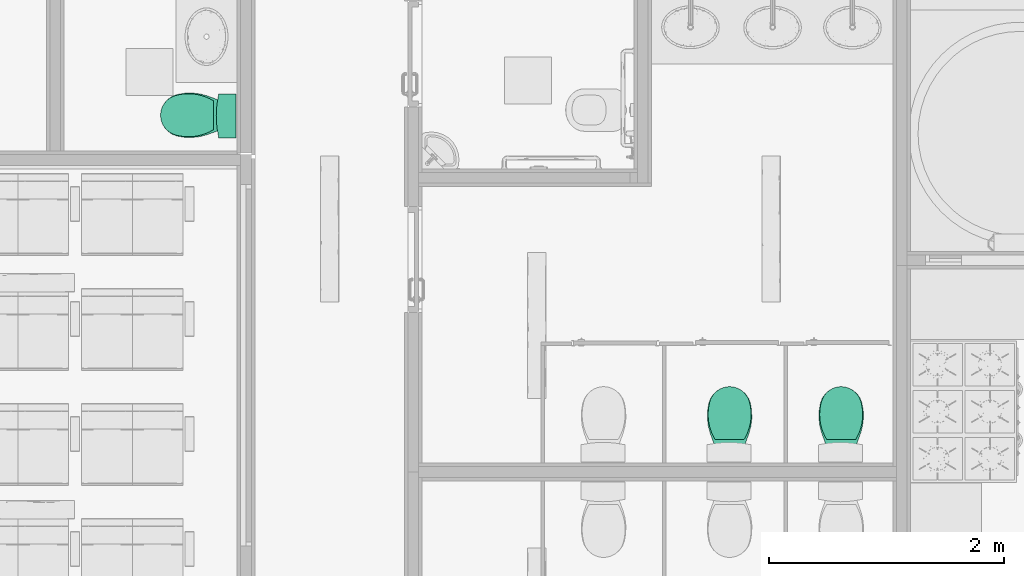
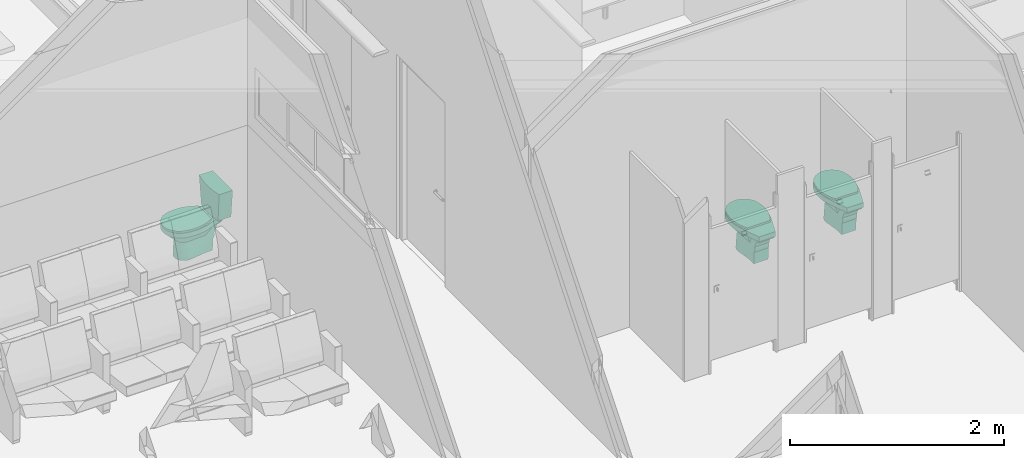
# One storey, part 71 of 155: 7 flow terminals.
"""IFC2X3 building model written with IfcOpenShell, lengths in metres."""

import ifcopenshell
import ifcopenshell.guid

model = None  # the IFC model being written
_history = None  # IfcOwnerHistory: only IFC2X3 demands one
_inside = {}  # id of a spatial element -> (the spatial element, [elements in it])
_under = {}  # id of a project, library or spatial element -> (it, [spatial elements below it])
_declared = {}  # id of a project -> (the project, [libraries it declares])
_typed = {}  # id of a type object -> (the type object, [elements of that type])
_made_of = {}  # id of a material, layer set ... -> (it, [elements and type objects made of it])


def new_model(schema):
    """Start an empty IFC model of exactly this schema.

    Asked for "IFC4X3", IfcOpenShell would pick the latest addendum, in which some entities
    have other attributes; the version numbers below select the first issue.
    IFC2X3 requires an IfcOwnerHistory on every rooted entity: one is made here for all.
    """
    global model, _history
    if schema == "IFC4X3":
        model = ifcopenshell.file(schema_version=(4, 3, 0, 0))
    else:
        model = ifcopenshell.file(schema=schema)
    _inside.clear()
    _under.clear()
    _declared.clear()
    _typed.clear()
    _made_of.clear()
    _history = None
    if model.schema == "IFC2X3":
        org = make("IfcOrganization", Name="unknown")
        user = make(
            "IfcPersonAndOrganization",
            ThePerson=make("IfcPerson", FamilyName="unknown"),
            TheOrganization=org,
        )
        app = make(
            "IfcApplication",
            ApplicationDeveloper=org,
            Version="unknown",
            ApplicationFullName="unknown",
            ApplicationIdentifier="unknown",
        )
        _history = make(
            "IfcOwnerHistory",
            OwningUser=user,
            OwningApplication=app,
            ChangeAction="ADDED",
            CreationDate=0,
        )
    return model


def make(cls, **values):
    """One entity of the class cls with the attributes given. An attribute that is None is left unset."""
    return model.create_entity(
        cls, **{name: value for name, value in values.items() if value is not None}
    )


def entity(cls, *values):
    """Any entity or typed value of the class cls, its attributes in the order of the schema. None: left unset."""
    e = model.create_entity(cls)
    for i, value in enumerate(values):
        if value is not None:
            e[i] = value
    return e


def rooted(cls, **values):
    """An entity with a GlobalId (a new one), such as an element, a storey or a relation."""
    return make(cls, GlobalId=ifcopenshell.guid.new(), OwnerHistory=_history, **values)


def si_unit(unit_type, name, prefix=None):
    """IfcSIUnit, for example si_unit("LENGTHUNIT", "METRE", prefix="MILLI")."""
    return make("IfcSIUnit", UnitType=unit_type, Prefix=prefix, Name=name)


def converted_unit(unit_type, name, factor, base, dimensions=None, offset=None):
    """IfcConversionBasedUnit, such as the inch: factor (a typed value) times the base unit."""
    return make(
        "IfcConversionBasedUnit"
        if offset is None
        else "IfcConversionBasedUnitWithOffset",
        ConversionOffset=offset,
        Dimensions=None
        if dimensions is None
        else entity("IfcDimensionalExponents", *dimensions),
        UnitType=unit_type,
        Name=name,
        ConversionFactor=make(
            "IfcMeasureWithUnit", ValueComponent=factor, UnitComponent=base
        ),
    )


def derived_unit(unit_type, elements):
    """IfcDerivedUnit: a product of units, each with its exponent."""
    return make(
        "IfcDerivedUnit",
        Elements=[
            make("IfcDerivedUnitElement", Unit=unit, Exponent=power)
            for unit, power in elements
        ],
        UnitType=unit_type,
    )


def assignment(units):
    """IfcUnitAssignment: the units of a project."""
    return None if units is None else make("IfcUnitAssignment", Units=units)


def point(xyz):
    """IfcCartesianPoint."""
    return None if xyz is None else make("IfcCartesianPoint", Coordinates=xyz)


def direction(xyz):
    """IfcDirection."""
    return None if xyz is None else make("IfcDirection", DirectionRatios=xyz)


def frame(location, z_axis=None, x_axis=None):
    """IfcAxis2Placement3D, a coordinate frame: its origin and axes. An axis left out is left unset."""
    return make(
        "IfcAxis2Placement3D",
        Location=point(location),
        Axis=direction(z_axis),
        RefDirection=direction(x_axis),
    )


def frame_2d(location, x_axis=None):
    """IfcAxis2Placement2D, a coordinate frame in the plane: its origin and x axis."""
    return make(
        "IfcAxis2Placement2D", Location=point(location), RefDirection=direction(x_axis)
    )


def origin():
    """The frame at (0, 0, 0) with its axes left unset."""
    return frame((0.0, 0.0, 0.0))


def place(relative_to, where):
    """IfcLocalPlacement: puts the frame where relative to a parent placement (None: the world)."""
    return make(
        "IfcLocalPlacement", PlacementRelTo=relative_to, RelativePlacement=where
    )


def context(
    kind, dimensions, precision=None, world=None, true_north=None, identifier=None
):
    """IfcGeometricRepresentationContext, for example the 3D "Model" context."""
    return make(
        "IfcGeometricRepresentationContext",
        ContextIdentifier=identifier,
        ContextType=kind,
        CoordinateSpaceDimension=dimensions,
        Precision=precision,
        WorldCoordinateSystem=world,
        TrueNorth=true_north,
    )


def subcontext(parent, identifier, kind, view, scale=None):
    """IfcGeometricRepresentationSubContext, for example "Body" below "Model"."""
    return make(
        "IfcGeometricRepresentationSubContext",
        ContextIdentifier=identifier,
        ContextType=kind,
        ParentContext=parent,
        TargetScale=scale,
        TargetView=view,
    )


def project(units=None, contexts=None):
    """IfcProject with its units and contexts."""
    return rooted(
        "IfcProject",
        Name="project",
        RepresentationContexts=contexts,
        UnitsInContext=assignment(units),
    )


def spatial(cls, under=None, at=None, **own):
    """A site, building, storey or space (cls), placed at a placement, below another one or the project."""
    s = rooted(cls, ObjectPlacement=at, **own)
    if under is not None:
        _under.setdefault(under.id(), (under, []))[1].append(s)
    return s


def polyline(points):
    """IfcPolyline through the points."""
    return make("IfcPolyline", Points=[point(p) for p in points])


def circle_curve(where, radius):
    """IfcCircle in the frame where."""
    return make("IfcCircle", Position=where, Radius=radius)


def parameter(value):
    """IfcParameterValue: where a trimmed curve begins or ends, as a parameter of its basis curve."""
    return model.create_entity("IfcParameterValue", value)


def trimmed(basis, trim1, trim2, sense, master):
    """IfcTrimmedCurve: the piece of a basis curve between two trims."""
    return make(
        "IfcTrimmedCurve",
        BasisCurve=basis,
        Trim1=trim1,
        Trim2=trim2,
        SenseAgreement=sense,
        MasterRepresentation=master,
    )


def segment(curve, same_sense, transition):
    """IfcCompositeCurveSegment."""
    return make(
        "IfcCompositeCurveSegment",
        Transition=transition,
        SameSense=same_sense,
        ParentCurve=curve,
    )


def composite_curve(segments, self_intersect=None):
    """IfcCompositeCurve: segments joined end to end."""
    return make("IfcCompositeCurve", Segments=segments, SelfIntersect=self_intersect)


def outline(outer, holes=None, kind="AREA"):
    """IfcArbitraryClosedProfileDef: a profile drawn as a closed curve; with holes, ...WithVoids."""
    if holes is None:
        return make("IfcArbitraryClosedProfileDef", ProfileType=kind, OuterCurve=outer)
    return make(
        "IfcArbitraryProfileDefWithVoids",
        ProfileType=kind,
        OuterCurve=outer,
        InnerCurves=holes,
    )


def extrude(swept, where, along, depth):
    """IfcExtrudedAreaSolid: the profile swept, set in the frame where, extruded along a direction by depth."""
    return make(
        "IfcExtrudedAreaSolid",
        SweptArea=swept,
        Position=where,
        ExtrudedDirection=direction(along),
        Depth=depth,
    )


def faces_of(points, faces, orient=None, outer=None):
    """IfcFace entities. A face is a list of loops; a loop is a list of indices into points, from 0.

    orient and outer hold one flag for each loop. By default every Orientation is true, the
    first loop of a face is its IfcFaceOuterBound and the others are IfcFaceBound.
    """
    made = []
    for i, loops in enumerate(faces):
        bounds = []
        for j, loop in enumerate(loops):
            is_outer = j == 0 if outer is None else outer[i][j]
            bounds.append(
                make(
                    "IfcFaceOuterBound" if is_outer else "IfcFaceBound",
                    Bound=make("IfcPolyLoop", Polygon=[points[k] for k in loop]),
                    Orientation=True if orient is None else orient[i][j],
                )
            )
        made.append(make("IfcFace", Bounds=bounds))
    return made


def faceted_brep(points, faces, orient=None, outer=None, voids=None):
    """IfcFacetedBrep: a solid bounded by flat faces; with voids (closed shells), ...WithVoids."""
    shared = [point(p) for p in points]
    hull = make("IfcClosedShell", CfsFaces=faces_of(shared, faces, orient, outer))
    if voids is None:
        return make("IfcFacetedBrep", Outer=hull)
    return make(
        "IfcFacetedBrepWithVoids",
        Outer=hull,
        Voids=[
            make(cls, CfsFaces=faces_of(shared, fs, o, b)) for cls, fs, o, b in voids
        ],
    )


def shape(context_of_items, identifier, shape_type, items):
    """IfcShapeRepresentation: the items that make up one representation, for example the "Body"."""
    return make(
        "IfcShapeRepresentation",
        ContextOfItems=context_of_items,
        RepresentationIdentifier=identifier,
        RepresentationType=shape_type,
        Items=items,
    )


def source(mapping_origin, context_of_items, identifier, shape_type, items):
    """IfcRepresentationMap: a shape defined once, which mapped items show again and again."""
    return make(
        "IfcRepresentationMap",
        MappingOrigin=mapping_origin,
        MappedRepresentation=shape(context_of_items, identifier, shape_type, items),
    )


def transform(
    local_origin,
    x_axis=None,
    y_axis=None,
    z_axis=None,
    scale=None,
    scale2=None,
    scale3=None,
    uniform=True,
):
    """IfcCartesianTransformationOperator3D, or its non-uniform kind. x_axis, y_axis, z_axis: its Axis1, 2, 3."""
    if uniform:
        return make(
            "IfcCartesianTransformationOperator3D",
            Axis1=direction(x_axis),
            Axis2=direction(y_axis),
            LocalOrigin=point(local_origin),
            Scale=scale,
            Axis3=direction(z_axis),
        )
    return make(
        "IfcCartesianTransformationOperator3DnonUniform",
        Axis1=direction(x_axis),
        Axis2=direction(y_axis),
        LocalOrigin=point(local_origin),
        Scale=scale,
        Axis3=direction(z_axis),
        Scale2=scale2,
        Scale3=scale3,
    )


def mapped(mapping_source, mapping_target):
    """IfcMappedItem: shows the shape of a source again, moved by a transform."""
    return make(
        "IfcMappedItem", MappingSource=mapping_source, MappingTarget=mapping_target
    )


def material(Name=None, Category=None):
    """IfcMaterial."""
    return make("IfcMaterial", Name=Name, Category=Category)


def made_of(thing, what):
    """Note that an element or type object is made of a material, layer set ...; save() writes the relation."""
    if what is not None:
        _made_of.setdefault(what.id(), (what, []))[1].append(thing)
    return thing


def element(
    cls,
    number,
    at=None,
    inside=None,
    cuts=None,
    type_object=None,
    material=None,
    context=None,
    identifier="Body",
    shape_type=None,
    held_by="IfcProductDefinitionShape",
    body=None,
    shapes=None,
    **own,
):
    """One element of the class cls, such as IfcWall. Its Tag is "e" and its number.

    at: its placement. inside: the storey or other place that contains it. cuts: it is an
    opening in that element (IfcRelVoidsElement). A single representation is given by context,
    identifier, shape_type and body (its items); several are given by shapes. held_by: the class
    of the entity that holds the representations. save() writes the other relations.
    """
    e = rooted(cls, Tag="e%d" % number, ObjectPlacement=at, **own)
    if body is not None:
        shapes = [shape(context, identifier, shape_type, body)]
    if shapes is not None:
        e.Representation = make(held_by, Representations=shapes)
    if inside is not None:
        _inside.setdefault(inside.id(), (inside, []))[1].append(e)
    if cuts is not None:
        rooted(
            "IfcRelVoidsElement", RelatingBuildingElement=cuts, RelatedOpeningElement=e
        )
    if type_object is not None:
        _typed.setdefault(type_object.id(), (type_object, []))[1].append(e)
    return made_of(e, material)


def aggregate(whole, parts):
    """IfcRelAggregates: a whole, such as a stair, and the parts it consists of."""
    return rooted("IfcRelAggregates", RelatingObject=whole, RelatedObjects=parts)


def save(model, path):
    """Write the relations noted so far, then the file.

    IfcRelAggregates (storeys below a building ...), IfcRelContainedInSpatialStructure (elements
    in a storey), IfcRelDefinesByType, IfcRelAssociatesMaterial and IfcRelDeclares: one each for
    every whole, place, type object, material and project.
    """
    for whole, parts in _under.values():
        aggregate(whole, parts)
    for where, things in _inside.values():
        rooted(
            "IfcRelContainedInSpatialStructure",
            RelatedElements=things,
            RelatingStructure=where,
        )
    for kind, things in _typed.values():
        rooted("IfcRelDefinesByType", RelatedObjects=things, RelatingType=kind)
    for what, things in _made_of.values():
        rooted("IfcRelAssociatesMaterial", RelatedObjects=things, RelatingMaterial=what)
    for by, libraries in _declared.values():
        rooted("IfcRelDeclares", RelatingContext=by, RelatedDefinitions=libraries)
    model.write(path)


model = new_model("IFC2X3")

# Units and contexts
model_context = context("Model", 3, precision=1e-05, world=origin(), true_north=direction((6.12303176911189e-17, 1.0)))
body_context = subcontext(model_context, "Body", "Model", "MODEL_VIEW")
ifc_project = project(units=[si_unit("LENGTHUNIT", "METRE"), si_unit("AREAUNIT", "SQUARE_METRE"), si_unit("VOLUMEUNIT", "CUBIC_METRE"), converted_unit("PLANEANGLEUNIT", "DEGREE", entity("IfcRatioMeasure", 0.0174532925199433), si_unit("PLANEANGLEUNIT", "RADIAN"), dimensions=[0, 0, 0, 0, 0, 0, 0]), si_unit("MASSUNIT", "GRAM", prefix="KILO"), derived_unit("MASSDENSITYUNIT", [(si_unit("MASSUNIT", "GRAM", prefix="KILO"), 1), (si_unit("LENGTHUNIT", "METRE"), -3)]), si_unit("TIMEUNIT", "SECOND"), si_unit("FREQUENCYUNIT", "HERTZ"), si_unit("THERMODYNAMICTEMPERATUREUNIT", "DEGREE_CELSIUS"), derived_unit("THERMALTRANSMITTANCEUNIT", [(si_unit("MASSUNIT", "GRAM", prefix="KILO"), 1), (si_unit("THERMODYNAMICTEMPERATUREUNIT", "KELVIN"), -1), (si_unit("TIMEUNIT", "SECOND"), -3)]), derived_unit("VOLUMETRICFLOWRATEUNIT", [(si_unit("LENGTHUNIT", "METRE"), 3), (si_unit("TIMEUNIT", "SECOND"), -1)]), si_unit("ELECTRICCURRENTUNIT", "AMPERE"), si_unit("ELECTRICVOLTAGEUNIT", "VOLT"), si_unit("POWERUNIT", "WATT"), si_unit("FORCEUNIT", "NEWTON", prefix="KILO"), si_unit("ILLUMINANCEUNIT", "LUX"), si_unit("LUMINOUSFLUXUNIT", "LUMEN"), si_unit("LUMINOUSINTENSITYUNIT", "CANDELA"), derived_unit("USERDEFINED", [(si_unit("MASSUNIT", "GRAM", prefix="KILO"), -1), (si_unit("LENGTHUNIT", "METRE"), -2), (si_unit("TIMEUNIT", "SECOND"), 3), (si_unit("LUMINOUSFLUXUNIT", "LUMEN"), 1)]), derived_unit("LINEARVELOCITYUNIT", [(si_unit("LENGTHUNIT", "METRE"), 1), (si_unit("TIMEUNIT", "SECOND"), -1)]), si_unit("PRESSUREUNIT", "PASCAL"), derived_unit("USERDEFINED", [(si_unit("LENGTHUNIT", "METRE"), -2), (si_unit("MASSUNIT", "GRAM", prefix="KILO"), 1), (si_unit("TIMEUNIT", "SECOND"), -2)])], contexts=[model_context])

# Site, building, storey, space
site_placement = place(None, frame((26.9889013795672, -17.5624287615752, 0.0)))
site = spatial("IfcSite", under=ifc_project, at=site_placement, Name="Default", CompositionType="ELEMENT")
building_placement = place(site_placement, origin())
building = spatial("IfcBuilding", under=site, at=building_placement, Name="C. C. L. Monsenhor Antônio Sampaio", CompositionType="ELEMENT")
storey_placement = place(building_placement, frame((0.0, 0.0, 1.19999999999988)))
storey = spatial("IfcBuildingStorey", under=building, at=storey_placement, Name="Nível 1.2", CompositionType="ELEMENT", Elevation=1.19999999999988)
space_1_placement = place(storey_placement, origin())
space_1 = spatial("IfcSpace", under=storey, at=space_1_placement, Name="92", CompositionType="ELEMENT", InteriorOrExteriorSpace="INTERNAL")

# Flow terminals
ifc_material_1 = material(Name="Deca CR37 Creme Cerâmica")
shared_shape_1 = source(origin(), body_context, "Body", "Brep", [
    faceted_brep([(0.268160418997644, 0.068263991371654, 0.193201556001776), (0.268160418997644, 0.00159527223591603, 0.1938965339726), (0.268160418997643, 0.00159527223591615, 0.118207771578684), (0.268160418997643, 0.132881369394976, 0.11554487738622), (0.268160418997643, 0.1485359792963, 0.10659475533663), (0.268160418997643, 0.165757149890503, 0.101246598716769), (0.268160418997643, 0.183727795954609, 0.0997541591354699), (0.268160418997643, 0.201595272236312, 0.102188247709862), (0.268160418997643, 0.282841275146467, 0.0693627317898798), (0.268160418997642, 0.284385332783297, 0.0523178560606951), (0.268160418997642, 0.289960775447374, 0.0361368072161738), (0.268160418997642, 0.299244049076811, 0.0217586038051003), (0.268160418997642, 0.311696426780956, 0.0100176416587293), (0.268160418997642, 0.326595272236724, 0.001595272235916), (0.268160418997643, 0.326595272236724, 0.140707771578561), (0.268160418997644, 0.201595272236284, 0.193896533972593), (0.268160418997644, 0.134935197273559, 0.192953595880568), (0.113406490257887, 0.284385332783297, 0.0523178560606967), (0.113406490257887, 0.282841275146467, 0.0693627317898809), (0.113406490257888, 0.201595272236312, 0.102188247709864), (0.113406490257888, 0.183727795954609, 0.0997541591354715), (0.113406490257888, 0.165757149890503, 0.101246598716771), (0.113406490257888, 0.1485359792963, 0.106594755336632), (0.113406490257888, 0.132881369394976, 0.115544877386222), (0.113406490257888, 0.00159527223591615, 0.118207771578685), (0.113406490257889, 0.00159527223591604, 0.193896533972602), (0.113406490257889, 0.0682618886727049, 0.194043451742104), (0.113406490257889, 0.134928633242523, 0.194094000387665), (0.113406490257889, 0.201595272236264, 0.193896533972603), (0.113406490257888, 0.326595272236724, 0.140707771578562), (0.113406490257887, 0.326595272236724, 0.00159527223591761), (0.113406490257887, 0.311696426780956, 0.0100176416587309), (0.113406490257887, 0.299244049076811, 0.0217586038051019), (0.113406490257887, 0.289960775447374, 0.0361368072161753), (0.105407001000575, 0.00159527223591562, 0.444568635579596), (0.0904656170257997, 0.00159527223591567, 0.415244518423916), (0.085317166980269, 0.00159527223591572, 0.382738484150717), (0.0979976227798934, 0.00159527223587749, 0.297541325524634), (0.105710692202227, 0.00159527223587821, 0.24571892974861), (0.281970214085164, 0.00159527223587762, 0.288317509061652), (0.295700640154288, 0.00159527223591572, 0.382738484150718), (0.290552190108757, 0.00159527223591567, 0.415244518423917), (0.275610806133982, 0.00159527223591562, 0.444568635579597), (0.252339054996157, 0.00159527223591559, 0.467840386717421), (0.223014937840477, 0.00159527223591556, 0.482781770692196), (0.206761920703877, 0.00159527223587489, 0.485355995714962), (0.190508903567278, 0.00159527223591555, 0.487930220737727), (0.158002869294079, 0.00159527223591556, 0.482781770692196), (0.128678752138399, 0.00159527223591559, 0.467840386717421), (0.27929222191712, 0.201595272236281, 0.393896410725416), (0.274335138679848, 0.201595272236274, 0.304195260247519), (0.271287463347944, 0.201595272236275, 0.249045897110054), (0.107574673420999, 0.201595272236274, 0.293896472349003), (0.104935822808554, 0.201595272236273, 0.339012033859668), (0.101725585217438, 0.201595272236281, 0.393896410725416), (0.107910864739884, 0.201595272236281, 0.423407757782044), (0.123610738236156, 0.20159527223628, 0.449150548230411), (0.147016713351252, 0.20159527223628, 0.468159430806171), (0.161224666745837, 0.201595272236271, 0.473202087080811), (0.175432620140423, 0.20159527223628, 0.47824474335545), (0.205585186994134, 0.20159527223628, 0.47824474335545), (0.234001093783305, 0.20159527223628, 0.468159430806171), (0.245704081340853, 0.201595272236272, 0.458654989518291), (0.257407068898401, 0.20159527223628, 0.449150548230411), (0.273106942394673, 0.201595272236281, 0.423407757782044), (0.098784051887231, 0.0914531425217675, 0.330769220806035), (0.105110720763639, 0.09802538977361, 0.273844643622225), (0.0934222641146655, 0.100387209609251, 0.388250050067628), (0.0953872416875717, 0.124338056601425, 0.389586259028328), (0.274339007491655, 0.102339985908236, 0.255685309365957), (0.280137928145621, 0.0987925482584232, 0.312510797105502), (0.285630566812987, 0.124338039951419, 0.389586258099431), (0.287496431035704, 0.101595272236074, 0.388317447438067), (0.0966193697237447, 0.106555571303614, 0.409632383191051), (0.121774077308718, 0.0904895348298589, 0.45601571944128), (0.109893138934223, 0.110328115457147, 0.439731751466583), (0.233838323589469, 0.0897522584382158, 0.474126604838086), (0.271124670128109, 0.110328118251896, 0.4397317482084), (0.259243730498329, 0.0904895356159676, 0.456015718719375), (0.165732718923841, 0.104768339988, 0.480372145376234), (0.284398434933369, 0.106555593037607, 0.40963238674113), (0.137585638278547, 0.102665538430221, 0.46796088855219), (0.212957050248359, 0.100008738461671, 0.481168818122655), (0.186508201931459, 0.111859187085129, 0.483217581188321)], [[[0, 1, 2, 3, 4, 5, 6, 7, 8, 9, 10, 11, 12, 13, 14, 15, 16]], [[17, 18, 19, 20, 21, 22, 23, 24, 25, 26, 27, 28, 29, 30, 31, 32, 33]], [[14, 13, 30, 29]], [[34, 35, 36, 37, 38, 25, 24, 2, 1, 39, 40, 41, 42, 43, 44, 45, 46, 47, 48]], [[3, 2, 24, 23]], [[3, 23, 22, 4]], [[4, 22, 21, 5]], [[20, 19, 7, 6]], [[20, 6, 5, 21]], [[8, 7, 19, 18]], [[8, 18, 17, 9]], [[9, 17, 33, 10]], [[33, 32, 11, 10]], [[11, 32, 31, 12]], [[12, 31, 30, 13]], [[15, 14, 29, 28]], [[49, 50, 51, 15, 28, 52, 53, 54, 55, 56, 57, 58, 59, 60, 61, 62, 63, 64]], [[65, 53, 52]], [[66, 65, 52]], [[27, 66, 28]], [[37, 66, 38]], [[36, 67, 65]], [[53, 67, 68, 54]], [[26, 25, 38]], [[26, 38, 66]], [[66, 52, 28]], [[27, 26, 66]], [[65, 66, 37]], [[36, 65, 37]], [[53, 65, 67]], [[39, 1, 69]], [[40, 39, 70]], [[69, 0, 16]], [[1, 0, 69]], [[70, 49, 71, 72, 40]], [[49, 70, 50]], [[70, 39, 69]], [[70, 69, 50]], [[16, 51, 69]], [[51, 16, 15]], [[51, 50, 69]], [[54, 73, 55]], [[36, 35, 73]], [[74, 34, 48]], [[75, 74, 56]], [[61, 76, 62]], [[75, 35, 34]], [[77, 78, 42]], [[79, 59, 58]], [[73, 54, 68, 67, 36]], [[80, 40, 72, 71, 49]], [[74, 75, 34]], [[56, 74, 81]], [[47, 81, 48]], [[81, 74, 48]], [[47, 79, 81]], [[75, 55, 73]], [[81, 79, 58]], [[56, 55, 75]], [[82, 76, 61]], [[44, 43, 76]], [[41, 80, 77]], [[45, 82, 83]], [[82, 61, 60]], [[43, 42, 78]], [[83, 82, 60]], [[49, 64, 80]], [[44, 82, 45]], [[82, 44, 76]], [[46, 83, 79]], [[83, 59, 79]], [[78, 76, 43]], [[77, 63, 78]], [[83, 46, 45]], [[46, 79, 47]], [[57, 81, 58]], [[60, 59, 83]], [[62, 76, 78]], [[62, 78, 63]], [[56, 81, 57]], [[41, 77, 42]], [[64, 63, 77]], [[75, 73, 35]], [[77, 80, 64]], [[40, 80, 41]]]),
    faceted_brep([(0.102206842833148, 0.326595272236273, 0.00159527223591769), (0.278810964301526, 0.326595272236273, 0.0015952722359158), (0.356018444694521, 0.32659527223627, 0.214136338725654), (0.37213908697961, 0.326595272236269, 0.276529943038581), (0.379422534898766, 0.326595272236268, 0.340559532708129), (0.377727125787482, 0.326595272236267, 0.404979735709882), (0.367085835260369, 0.326595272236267, 0.468537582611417), (0.351716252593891, 0.326595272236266, 0.509738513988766), (0.326893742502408, 0.326595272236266, 0.546037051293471), (0.294073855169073, 0.326595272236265, 0.575304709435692), (0.2551810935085, 0.326595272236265, 0.595825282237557), (0.212496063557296, 0.326595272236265, 0.606395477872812), (0.168521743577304, 0.326595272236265, 0.606395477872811), (0.1258367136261, 0.326595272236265, 0.595825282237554), (0.0869439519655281, 0.326595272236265, 0.575304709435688), (0.0541240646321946, 0.326595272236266, 0.546037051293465), (0.0293015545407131, 0.326595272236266, 0.50973851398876), (0.0139319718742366, 0.326595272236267, 0.468537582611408), (0.00329068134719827, 0.326595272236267, 0.404979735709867), (0.001595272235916, 0.326595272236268, 0.340559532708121), (0.00887872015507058, 0.326595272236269, 0.276529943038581), (0.0249993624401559, 0.32659527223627, 0.214136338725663), (0.212496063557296, 0.381595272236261, 0.606395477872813), (0.2551810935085, 0.381595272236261, 0.595825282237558), (0.294073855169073, 0.381595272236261, 0.575304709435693), (0.326893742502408, 0.381595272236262, 0.546037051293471), (0.351716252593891, 0.381595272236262, 0.509738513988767), (0.367085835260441, 0.381595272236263, 0.468537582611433), (0.377727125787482, 0.381595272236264, 0.404979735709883), (0.379422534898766, 0.381595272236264, 0.340559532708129), (0.37213908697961, 0.381595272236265, 0.276529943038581), (0.356018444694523, 0.381595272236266, 0.21413633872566), (0.278810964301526, 0.381595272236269, 0.00159527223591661), (0.102206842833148, 0.381595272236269, 0.00159527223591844), (0.0249993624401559, 0.381595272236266, 0.214136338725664), (0.00887872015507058, 0.381595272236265, 0.276529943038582), (0.001595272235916, 0.381595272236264, 0.340559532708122), (0.00329068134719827, 0.381595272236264, 0.404979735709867), (0.0139319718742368, 0.381595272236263, 0.46853758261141), (0.0293015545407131, 0.381595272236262, 0.50973851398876), (0.0541240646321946, 0.381595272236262, 0.546037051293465), (0.0869439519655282, 0.381595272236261, 0.575304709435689), (0.1258367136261, 0.381595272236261, 0.595825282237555), (0.168521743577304, 0.381595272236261, 0.606395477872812)], [[[0, 1, 2, 3, 4, 5, 6, 7, 8, 9, 10, 11, 12, 13, 14, 15, 16, 17, 18, 19, 20, 21]], [[22, 23, 24, 25, 26, 27, 28, 29, 30, 31, 32, 33, 34, 35, 36, 37, 38, 39, 40, 41, 42, 43]], [[0, 21, 34, 33]], [[1, 0, 33, 32]], [[2, 1, 32, 31]], [[30, 29, 4, 3]], [[30, 3, 2, 31]], [[28, 27, 6, 5]], [[28, 5, 4, 29]], [[26, 7, 6, 27]], [[25, 8, 7, 26]], [[10, 9, 24, 23]], [[25, 24, 9, 8]], [[11, 10, 23, 22]], [[22, 43, 12, 11]], [[42, 41, 14, 13]], [[43, 42, 13, 12]], [[15, 40, 39, 16]], [[40, 15, 14, 41]], [[16, 39, 38, 17]], [[37, 36, 19, 18]], [[37, 18, 17, 38]], [[35, 34, 21, 20]], [[35, 20, 19, 36]]]),
    faceted_brep([(0.370336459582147, 0.326595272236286, 0.267316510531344), (0.351889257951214, 0.326595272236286, 0.202319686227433), (0.324160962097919, 0.326595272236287, 0.140707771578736), (0.0568568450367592, 0.326595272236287, 0.140707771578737), (0.0291285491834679, 0.326595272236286, 0.202319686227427), (0.0106813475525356, 0.326595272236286, 0.267316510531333), (0.00190963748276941, 0.326595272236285, 0.334308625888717), (0.00300095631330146, 0.326595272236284, 0.401863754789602), (0.0139319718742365, 0.326595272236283, 0.468537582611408), (0.0293015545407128, 0.326595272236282, 0.509738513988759), (0.0541240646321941, 0.326595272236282, 0.546037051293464), (0.0869439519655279, 0.326595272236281, 0.575304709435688), (0.1258367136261, 0.326595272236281, 0.595825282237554), (0.168521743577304, 0.326595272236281, 0.606395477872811), (0.212496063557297, 0.326595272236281, 0.606395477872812), (0.255181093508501, 0.326595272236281, 0.595825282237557), (0.294073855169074, 0.326595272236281, 0.575304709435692), (0.326893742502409, 0.326595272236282, 0.546037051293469), (0.351716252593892, 0.326595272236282, 0.509738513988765), (0.36708583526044, 0.326595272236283, 0.468537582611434), (0.378016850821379, 0.326595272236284, 0.401863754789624), (0.379108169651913, 0.326595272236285, 0.334308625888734), (0.11342376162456, 0.201595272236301, 0.193896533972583), (0.268239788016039, 0.201595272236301, 0.193896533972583), (0.271002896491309, 0.201595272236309, 0.243896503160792), (0.273766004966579, 0.201595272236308, 0.293896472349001), (0.276529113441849, 0.201595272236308, 0.34389644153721), (0.27929222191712, 0.201595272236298, 0.39389641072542), (0.273106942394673, 0.201595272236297, 0.423407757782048), (0.2574070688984, 0.201595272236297, 0.449150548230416), (0.245704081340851, 0.201595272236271, 0.458654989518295), (0.234001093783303, 0.201595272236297, 0.468159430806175), (0.20558518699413, 0.201595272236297, 0.478244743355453), (0.175432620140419, 0.201595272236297, 0.478244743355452), (0.147016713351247, 0.201595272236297, 0.468159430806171), (0.1353137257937, 0.201595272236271, 0.45865498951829), (0.123610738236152, 0.201595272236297, 0.449150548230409), (0.107910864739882, 0.201595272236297, 0.42340775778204), (0.101725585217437, 0.201595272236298, 0.393896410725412), (0.104650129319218, 0.201595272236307, 0.343896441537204), (0.107574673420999, 0.201595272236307, 0.293896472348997), (0.11049921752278, 0.201595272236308, 0.24389650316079), (0.0897553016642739, 0.253897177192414, 0.171641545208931), (0.0733060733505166, 0.290246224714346, 0.156174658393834), (0.307908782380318, 0.290266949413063, 0.15616583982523), (0.291656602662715, 0.253938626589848, 0.17162390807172), (0.319208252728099, 0.272102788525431, 0.227274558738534), (0.29696767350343, 0.2335483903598, 0.266380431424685), (0.301825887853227, 0.233548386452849, 0.324994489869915), (0.326006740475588, 0.265501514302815, 0.297350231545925), (0.334403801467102, 0.2721027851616, 0.369343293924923), (0.292104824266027, 0.236338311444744, 0.219552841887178), (0.341570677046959, 0.290266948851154, 0.446844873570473), (0.335161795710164, 0.281142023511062, 0.441396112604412), (0.316055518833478, 0.253938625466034, 0.425152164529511), (0.30510677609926, 0.236338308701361, 0.372928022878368), (0.0467077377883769, 0.27207170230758, 0.369338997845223), (0.0649913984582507, 0.253897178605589, 0.425127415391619), (0.0458560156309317, 0.281142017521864, 0.441396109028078), (0.0394616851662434, 0.290246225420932, 0.446832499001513), (0.0793721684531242, 0.233548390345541, 0.324994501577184), (0.084350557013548, 0.233548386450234, 0.266380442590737), (0.0551688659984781, 0.26550151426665, 0.297350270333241), (0.0620458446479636, 0.272071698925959, 0.227275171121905), (0.0759980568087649, 0.236332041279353, 0.372914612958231), (0.089299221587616, 0.236332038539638, 0.219565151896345), (0.0711556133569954, 0.253109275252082, 0.447531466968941), (0.0730163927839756, 0.268794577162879, 0.482893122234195), (0.224981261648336, 0.266780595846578, 0.541965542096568), (0.190508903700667, 0.260738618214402, 0.540189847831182), (0.130559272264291, 0.266252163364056, 0.531942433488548), (0.10885067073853, 0.267953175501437, 0.520707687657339), (0.309862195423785, 0.253109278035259, 0.447531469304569), (0.15603654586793, 0.266780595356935, 0.541965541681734), (0.0912929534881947, 0.265794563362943, 0.502321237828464), (0.250458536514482, 0.266252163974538, 0.531942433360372), (0.308001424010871, 0.268794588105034, 0.482893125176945), (0.289724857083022, 0.265794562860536, 0.50232123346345), (0.272167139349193, 0.26795317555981, 0.520707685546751)], [[[0, 1, 2, 3, 4, 5, 6, 7, 8, 9, 10, 11, 12, 13, 14, 15, 16, 17, 18, 19, 20, 21]], [[22, 23, 24, 25, 26, 27, 28, 29, 30, 31, 32, 33, 34, 35, 36, 37, 38, 39, 40, 41]], [[22, 42, 43, 3, 2, 44, 45, 23]], [[44, 46, 45]], [[25, 47, 48]], [[49, 0, 21]], [[20, 50, 21]], [[1, 46, 44]], [[51, 46, 47]], [[47, 46, 49]], [[50, 52, 53, 54]], [[26, 25, 48]], [[1, 0, 46]], [[44, 2, 1]], [[55, 27, 26]], [[26, 48, 55]], [[0, 49, 46]], [[52, 50, 20]], [[20, 19, 52]], [[50, 49, 21]], [[24, 47, 25]], [[45, 51, 23]], [[47, 24, 51]], [[48, 47, 49]], [[23, 51, 24]], [[46, 51, 45]], [[49, 50, 48]], [[55, 50, 54]], [[50, 55, 48]], [[27, 55, 54]], [[56, 57, 58, 59]], [[40, 60, 61]], [[62, 6, 5]], [[4, 63, 5]], [[7, 56, 59]], [[64, 56, 60]], [[60, 56, 62]], [[42, 63, 43]], [[41, 40, 61]], [[7, 6, 56]], [[59, 8, 7]], [[65, 22, 41]], [[41, 61, 65]], [[6, 62, 56]], [[43, 63, 4]], [[4, 3, 43]], [[63, 62, 5]], [[39, 60, 40]], [[57, 64, 38]], [[60, 39, 64]], [[61, 60, 62]], [[38, 64, 39]], [[56, 64, 57]], [[62, 63, 61]], [[65, 63, 42]], [[63, 65, 61]], [[22, 65, 42]], [[66, 37, 67]], [[68, 69, 32]], [[35, 70, 71]], [[72, 27, 54, 53]], [[69, 73, 33]], [[74, 67, 36]], [[27, 72, 28]], [[73, 34, 33]], [[33, 32, 69]], [[37, 66, 38]], [[9, 67, 10]], [[9, 8, 59, 58]], [[10, 67, 74]], [[73, 70, 34]], [[69, 68, 14]], [[18, 53, 52, 19]], [[73, 13, 12]], [[11, 74, 71]], [[13, 73, 69]], [[12, 11, 70]], [[31, 75, 68]], [[76, 17, 77]], [[29, 28, 76]], [[11, 10, 74]], [[35, 71, 36]], [[78, 30, 29]], [[70, 35, 34]], [[73, 12, 70]], [[68, 15, 14]], [[75, 15, 68]], [[16, 15, 75]], [[29, 77, 78]], [[77, 29, 76]], [[76, 18, 17]], [[9, 66, 67]], [[36, 67, 37]], [[18, 76, 72]], [[66, 9, 58]], [[66, 58, 57, 38]], [[14, 13, 69]], [[72, 76, 28]], [[31, 68, 32]], [[18, 72, 53]], [[17, 16, 77]], [[75, 31, 30]], [[78, 77, 16]], [[71, 74, 36]], [[70, 11, 71]], [[16, 75, 78]], [[30, 78, 75]]]),
])
for number, where, z_axis, x_axis, name in (
    (1, (-1.61764184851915, -12.5612741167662, -0.00159527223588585), (0.0, 1.0, 0.0), (-1.0, 0.0, 0.0), "Bacia para Caixa Acoplada:P.750_Creme CR37_Acionamento Simples 6lpf"),
    (2, (-0.670043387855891, -12.5612741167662, -0.00159527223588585), (0.0, 1.0, 0.0), (-1.0, 0.0, 0.0), "Bacia para Caixa Acoplada:P.750_Creme CR37_Acionamento Simples 6lpf"),
):
    element("IfcFlowTerminal", number, at=place(space_1_placement, frame(where, z_axis=z_axis, x_axis=x_axis)), inside=space_1, material=ifc_material_1, Name=name, ObjectType="P.750_Creme CR37_Acionamento Simples 6lpf", context=body_context, shape_type="MappedRepresentation", body=[
        mapped(shared_shape_1, transform((0.0, 0.0, 0.0), scale=1.0)),
    ])

# Space
space_2_placement = place(storey_placement, origin())
space_2 = spatial("IfcSpace", under=storey, at=space_2_placement, Name="99", CompositionType="ELEMENT", InteriorOrExteriorSpace="INTERNAL")

# Flow terminals
flow_terminal_1_placement = place(space_2_placement, frame((-6.03234451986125, -9.45755744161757, -0.00159527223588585), z_axis=(-1.0, 0.0, 0.0), x_axis=(0.0, -1.0, 0.0)))
element("IfcFlowTerminal", 3, at=flow_terminal_1_placement, inside=space_2, material=ifc_material_1, Name="Bacia para Caixa Acoplada:P.750_Creme CR37_Acionamento Simples 6lpf", ObjectType="P.750_Creme CR37_Acionamento Simples 6lpf", context=body_context, shape_type="MappedRepresentation", body=[
    mapped(shared_shape_1, transform((0.0, 0.0, 0.0), scale=1.0)),
])
ifc_material_2 = material(Name="Deca GE17 Branco Gelo Plástico")
shared_shape_2 = source(origin(), body_context, "Body", "SweptSolid", [
    extrude(outline(composite_curve([segment(trimmed(circle_curve(frame_2d((-0.195877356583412, 0.120829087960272), x_axis=(1.0, 0.0)), 0.406949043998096), [parameter(309.687623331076)], [parameter(356.917468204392)], True, "PARAMETER"), True, "CONTINUOUS"), segment(trimmed(circle_curve(frame_2d((0.0368457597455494, 0.108296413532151), x_axis=(-0.946706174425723, 0.322098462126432)), 0.173888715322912), [parameter(195.707346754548)], [parameter(344.292653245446)], True, "PARAMETER"), True, "CONTINUOUS"), segment(trimmed(circle_curve(frame_2d((0.2289232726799, -0.0237011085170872), x_axis=(-0.792505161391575, 0.609865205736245)), 0.406949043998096), [parameter(3.08253179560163)], [parameter(50.3123766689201)], True, "PARAMETER"), True, "CONTINUOUS"), segment(polyline([(-0.168018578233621, -0.113393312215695), (0.0640009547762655, -0.19233346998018)]), True, "CONTINUOUS")], self_intersect=False)), frame((0.0, 0.00078451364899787, 0.151312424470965), z_axis=(0.0, 1.0, 0.0), x_axis=(-0.946706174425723, 0.0, 0.322098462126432)), (0.0, 0.0, 1.0), 0.0202797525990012),
])
for number, where, z_axis, x_axis, name in (
    (4, (-1.80815075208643, -12.3924413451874, 0.380000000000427), (0.0, 1.0, 0.0), (-1.0, 0.0, 0.0), "Assento para Bacia Sanitária:Assento para Bacia Sanitária"),
    (5, (-0.860552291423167, -12.3924413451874, 0.380000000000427), (0.0, 1.0, 0.0), (-1.0, 0.0, 0.0), "Assento para Bacia Sanitária:Assento para Bacia Sanitária"),
):
    element("IfcFlowTerminal", number, at=place(space_1_placement, frame(where, z_axis=z_axis, x_axis=x_axis)), inside=space_1, material=ifc_material_2, Name=name, ObjectType="Assento para Bacia Sanitária", context=body_context, shape_type="MappedRepresentation", body=[
        mapped(shared_shape_2, transform((0.0, 0.0, 0.0), scale=1.0)),
    ])
flow_terminal_2_placement = place(space_2_placement, frame((-6.20117729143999, -9.64806634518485, 0.380000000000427), z_axis=(-1.0, 0.0, 0.0), x_axis=(0.0, -1.0, 0.0)))
element("IfcFlowTerminal", 6, at=flow_terminal_2_placement, inside=space_2, material=ifc_material_2, Name="Assento para Bacia Sanitária:Assento para Bacia Sanitária", ObjectType="Assento para Bacia Sanitária", context=body_context, shape_type="MappedRepresentation", body=[
    mapped(shared_shape_2, transform((0.0, 0.0, 0.0), scale=1.0)),
])
shared_shape_3 = source(origin(), body_context, "Body", "Brep", [
    faceted_brep([(0.156041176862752, 0.0, 0.140537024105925), (0.0783916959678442, 0.0, 0.151956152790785), (0.0, 0.0, 0.155774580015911), (-0.0783916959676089, 0.0, 0.151956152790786), (-0.156041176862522, 0.0, 0.140537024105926), (-0.156041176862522, 0.0, 0.0), (0.156041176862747, 0.0, 0.0), (0.187262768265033, 0.320000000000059, 0.146391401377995), (0.187262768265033, 0.320000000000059, 0.0), (-0.187262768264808, 0.320000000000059, 0.0), (-0.187262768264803, 0.320000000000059, 0.146391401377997), (-0.0942242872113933, 0.320000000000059, 0.162205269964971), (0.0, 0.320000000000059, 0.167498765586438), (0.0942242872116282, 0.320000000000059, 0.16220526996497), (-0.171038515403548, 0.153712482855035, 0.143349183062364), (0.172265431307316, 0.166287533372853, 0.143579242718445), (0.107419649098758, 0.153032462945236, 0.154306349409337), (0.0432143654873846, 0.160000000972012, 0.160496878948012), (-0.0432143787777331, 0.160000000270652, 0.160496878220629), (-0.108279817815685, 0.16696754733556, 0.154716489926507)], [[[0, 1, 2, 3, 4, 5, 6]], [[7, 8, 9, 10, 11, 12, 13]], [[9, 5, 4, 14, 10]], [[6, 8, 7, 15, 0]], [[5, 9, 8, 6]], [[0, 15, 7, 16]], [[13, 16, 7]], [[13, 12, 17]], [[16, 13, 17]], [[16, 17, 1]], [[18, 17, 12]], [[17, 2, 1]], [[19, 18, 11]], [[3, 19, 4]], [[10, 19, 11]], [[11, 18, 12]], [[18, 19, 3]], [[0, 16, 1]], [[2, 17, 18]], [[10, 14, 4, 19]], [[2, 18, 3]]]),
])
flow_terminal_3_placement = place(space_2_placement, frame((-6.00055229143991, -9.65306634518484, 0.380000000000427), z_axis=(-1.0, 0.0, 0.0), x_axis=(0.0, -1.0, 0.0)))
element("IfcFlowTerminal", 7, at=flow_terminal_3_placement, inside=space_2, material=ifc_material_1, Name="Caixa de Descarga Acoplada:Caixa de Descarga Acoplada", ObjectType="Caixa de Descarga Acoplada", context=body_context, shape_type="MappedRepresentation", body=[
    mapped(shared_shape_3, transform((0.0, 0.0, 0.0), scale=1.0)),
])

save(model, "model.ifc")
